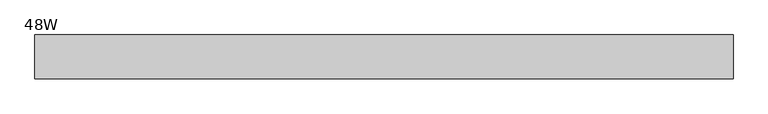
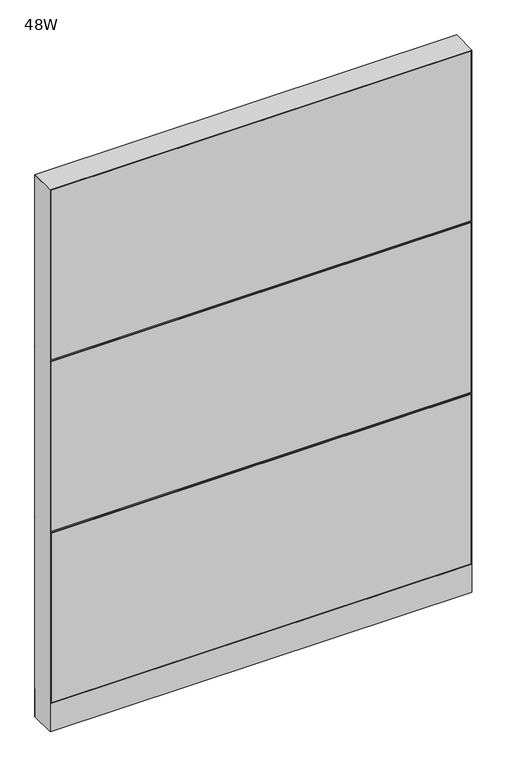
"""IFC4 building model written with IfcOpenShell, lengths in millimetres: furniture geometry, Steelcase - Montage - Frame - 65H - Enhanced Monolithic - Base Cavity : 48W."""

import ifcopenshell
import ifcopenshell.guid

model = None  # the IFC model being written
_history = None  # IfcOwnerHistory: only IFC2X3 demands one
_inside = {}  # id of a spatial element -> (the spatial element, [elements in it])
_under = {}  # id of a project, library or spatial element -> (it, [spatial elements below it])
_declared = {}  # id of a project -> (the project, [libraries it declares])
_typed = {}  # id of a type object -> (the type object, [elements of that type])
_made_of = {}  # id of a material, layer set ... -> (it, [elements and type objects made of it])


def new_model(schema):
    """Start an empty IFC model of exactly this schema.

    Asked for "IFC4X3", IfcOpenShell would pick the latest addendum, in which some entities
    have other attributes; the version numbers below select the first issue.
    IFC2X3 requires an IfcOwnerHistory on every rooted entity: one is made here for all.
    """
    global model, _history
    if schema == "IFC4X3":
        model = ifcopenshell.file(schema_version=(4, 3, 0, 0))
    else:
        model = ifcopenshell.file(schema=schema)
    _inside.clear()
    _under.clear()
    _declared.clear()
    _typed.clear()
    _made_of.clear()
    _history = None
    if model.schema == "IFC2X3":
        org = make("IfcOrganization", Name="unknown")
        user = make(
            "IfcPersonAndOrganization",
            ThePerson=make("IfcPerson", FamilyName="unknown"),
            TheOrganization=org,
        )
        app = make(
            "IfcApplication",
            ApplicationDeveloper=org,
            Version="unknown",
            ApplicationFullName="unknown",
            ApplicationIdentifier="unknown",
        )
        _history = make(
            "IfcOwnerHistory",
            OwningUser=user,
            OwningApplication=app,
            ChangeAction="ADDED",
            CreationDate=0,
        )
    return model


def make(cls, **values):
    """One entity of the class cls with the attributes given. An attribute that is None is left unset."""
    return model.create_entity(
        cls, **{name: value for name, value in values.items() if value is not None}
    )


def rooted(cls, **values):
    """An entity with a GlobalId (a new one), such as an element, a storey or a relation."""
    return make(cls, GlobalId=ifcopenshell.guid.new(), OwnerHistory=_history, **values)


def si_unit(unit_type, name, prefix=None):
    """IfcSIUnit, for example si_unit("LENGTHUNIT", "METRE", prefix="MILLI")."""
    return make("IfcSIUnit", UnitType=unit_type, Prefix=prefix, Name=name)


def assignment(units):
    """IfcUnitAssignment: the units of a project."""
    return None if units is None else make("IfcUnitAssignment", Units=units)


def point(xyz):
    """IfcCartesianPoint."""
    return None if xyz is None else make("IfcCartesianPoint", Coordinates=xyz)


def direction(xyz):
    """IfcDirection."""
    return None if xyz is None else make("IfcDirection", DirectionRatios=xyz)


def frame(location, z_axis=None, x_axis=None):
    """IfcAxis2Placement3D, a coordinate frame: its origin and axes. An axis left out is left unset."""
    return make(
        "IfcAxis2Placement3D",
        Location=point(location),
        Axis=direction(z_axis),
        RefDirection=direction(x_axis),
    )


def frame_2d(location, x_axis=None):
    """IfcAxis2Placement2D, a coordinate frame in the plane: its origin and x axis."""
    return make(
        "IfcAxis2Placement2D", Location=point(location), RefDirection=direction(x_axis)
    )


def origin():
    """The frame at (0, 0, 0) with its axes left unset."""
    return frame((0.0, 0.0, 0.0))


def origin_with_axes():
    """The frame at (0, 0, 0) with the z axis (0, 0, 1) and the x axis (1, 0, 0) written out."""
    return frame((0.0, 0.0, 0.0), z_axis=(0.0, 0.0, 1.0), x_axis=(1.0, 0.0, 0.0))


def place(relative_to, where):
    """IfcLocalPlacement: puts the frame where relative to a parent placement (None: the world)."""
    return make(
        "IfcLocalPlacement", PlacementRelTo=relative_to, RelativePlacement=where
    )


def context(
    kind, dimensions, precision=None, world=None, true_north=None, identifier=None
):
    """IfcGeometricRepresentationContext, for example the 3D "Model" context."""
    return make(
        "IfcGeometricRepresentationContext",
        ContextIdentifier=identifier,
        ContextType=kind,
        CoordinateSpaceDimension=dimensions,
        Precision=precision,
        WorldCoordinateSystem=world,
        TrueNorth=true_north,
    )


def project(units=None, contexts=None):
    """IfcProject with its units and contexts."""
    return rooted(
        "IfcProject",
        Name="project",
        RepresentationContexts=contexts,
        UnitsInContext=assignment(units),
    )


def spatial(cls, under=None, at=None, **own):
    """A site, building, storey or space (cls), placed at a placement, below another one or the project."""
    s = rooted(cls, ObjectPlacement=at, **own)
    if under is not None:
        _under.setdefault(under.id(), (under, []))[1].append(s)
    return s


def polyline(points):
    """IfcPolyline through the points."""
    return make("IfcPolyline", Points=[point(p) for p in points])


def circle_curve(where, radius):
    """IfcCircle in the frame where."""
    return make("IfcCircle", Position=where, Radius=radius)


def trimmed(basis, trim1, trim2, sense, master):
    """IfcTrimmedCurve: the piece of a basis curve between two trims."""
    return make(
        "IfcTrimmedCurve",
        BasisCurve=basis,
        Trim1=trim1,
        Trim2=trim2,
        SenseAgreement=sense,
        MasterRepresentation=master,
    )


def segment(curve, same_sense, transition):
    """IfcCompositeCurveSegment."""
    return make(
        "IfcCompositeCurveSegment",
        Transition=transition,
        SameSense=same_sense,
        ParentCurve=curve,
    )


def composite_curve(segments, self_intersect=None):
    """IfcCompositeCurve: segments joined end to end."""
    return make("IfcCompositeCurve", Segments=segments, SelfIntersect=self_intersect)


def outline(outer, holes=None, kind="AREA"):
    """IfcArbitraryClosedProfileDef: a profile drawn as a closed curve; with holes, ...WithVoids."""
    if holes is None:
        return make("IfcArbitraryClosedProfileDef", ProfileType=kind, OuterCurve=outer)
    return make(
        "IfcArbitraryProfileDefWithVoids",
        ProfileType=kind,
        OuterCurve=outer,
        InnerCurves=holes,
    )


def extrude(swept, where, along, depth):
    """IfcExtrudedAreaSolid: the profile swept, set in the frame where, extruded along a direction by depth."""
    return make(
        "IfcExtrudedAreaSolid",
        SweptArea=swept,
        Position=where,
        ExtrudedDirection=direction(along),
        Depth=depth,
    )


def faces_of(points, faces, orient=None, outer=None):
    """IfcFace entities. A face is a list of loops; a loop is a list of indices into points, from 0.

    orient and outer hold one flag for each loop. By default every Orientation is true, the
    first loop of a face is its IfcFaceOuterBound and the others are IfcFaceBound.
    """
    made = []
    for i, loops in enumerate(faces):
        bounds = []
        for j, loop in enumerate(loops):
            is_outer = j == 0 if outer is None else outer[i][j]
            bounds.append(
                make(
                    "IfcFaceOuterBound" if is_outer else "IfcFaceBound",
                    Bound=make("IfcPolyLoop", Polygon=[points[k] for k in loop]),
                    Orientation=True if orient is None else orient[i][j],
                )
            )
        made.append(make("IfcFace", Bounds=bounds))
    return made


def faceted_brep(points, faces, orient=None, outer=None, voids=None):
    """IfcFacetedBrep: a solid bounded by flat faces; with voids (closed shells), ...WithVoids."""
    shared = [point(p) for p in points]
    hull = make("IfcClosedShell", CfsFaces=faces_of(shared, faces, orient, outer))
    if voids is None:
        return make("IfcFacetedBrep", Outer=hull)
    return make(
        "IfcFacetedBrepWithVoids",
        Outer=hull,
        Voids=[
            make(cls, CfsFaces=faces_of(shared, fs, o, b)) for cls, fs, o, b in voids
        ],
    )


def shape(context_of_items, identifier, shape_type, items):
    """IfcShapeRepresentation: the items that make up one representation, for example the "Body"."""
    return make(
        "IfcShapeRepresentation",
        ContextOfItems=context_of_items,
        RepresentationIdentifier=identifier,
        RepresentationType=shape_type,
        Items=items,
    )


def source(mapping_origin, context_of_items, identifier, shape_type, items):
    """IfcRepresentationMap: a shape defined once, which mapped items show again and again."""
    return make(
        "IfcRepresentationMap",
        MappingOrigin=mapping_origin,
        MappedRepresentation=shape(context_of_items, identifier, shape_type, items),
    )


def transform(
    local_origin,
    x_axis=None,
    y_axis=None,
    z_axis=None,
    scale=None,
    scale2=None,
    scale3=None,
    uniform=True,
):
    """IfcCartesianTransformationOperator3D, or its non-uniform kind. x_axis, y_axis, z_axis: its Axis1, 2, 3."""
    if uniform:
        return make(
            "IfcCartesianTransformationOperator3D",
            Axis1=direction(x_axis),
            Axis2=direction(y_axis),
            LocalOrigin=point(local_origin),
            Scale=scale,
            Axis3=direction(z_axis),
        )
    return make(
        "IfcCartesianTransformationOperator3DnonUniform",
        Axis1=direction(x_axis),
        Axis2=direction(y_axis),
        LocalOrigin=point(local_origin),
        Scale=scale,
        Axis3=direction(z_axis),
        Scale2=scale2,
        Scale3=scale3,
    )


def mapped(mapping_source, mapping_target):
    """IfcMappedItem: shows the shape of a source again, moved by a transform."""
    return make(
        "IfcMappedItem", MappingSource=mapping_source, MappingTarget=mapping_target
    )


def made_of(thing, what):
    """Note that an element or type object is made of a material, layer set ...; save() writes the relation."""
    if what is not None:
        _made_of.setdefault(what.id(), (what, []))[1].append(thing)
    return thing


def element(
    cls,
    number,
    at=None,
    inside=None,
    cuts=None,
    type_object=None,
    material=None,
    context=None,
    identifier="Body",
    shape_type=None,
    held_by="IfcProductDefinitionShape",
    body=None,
    shapes=None,
    **own,
):
    """One element of the class cls, such as IfcWall. Its Tag is "e" and its number.

    at: its placement. inside: the storey or other place that contains it. cuts: it is an
    opening in that element (IfcRelVoidsElement). A single representation is given by context,
    identifier, shape_type and body (its items); several are given by shapes. held_by: the class
    of the entity that holds the representations. save() writes the other relations.
    """
    e = rooted(cls, Tag="e%d" % number, ObjectPlacement=at, **own)
    if body is not None:
        shapes = [shape(context, identifier, shape_type, body)]
    if shapes is not None:
        e.Representation = make(held_by, Representations=shapes)
    if inside is not None:
        _inside.setdefault(inside.id(), (inside, []))[1].append(e)
    if cuts is not None:
        rooted(
            "IfcRelVoidsElement", RelatingBuildingElement=cuts, RelatedOpeningElement=e
        )
    if type_object is not None:
        _typed.setdefault(type_object.id(), (type_object, []))[1].append(e)
    return made_of(e, material)


def aggregate(whole, parts):
    """IfcRelAggregates: a whole, such as a stair, and the parts it consists of."""
    return rooted("IfcRelAggregates", RelatingObject=whole, RelatedObjects=parts)


def save(model, path):
    """Write the relations noted so far, then the file.

    IfcRelAggregates (storeys below a building ...), IfcRelContainedInSpatialStructure (elements
    in a storey), IfcRelDefinesByType, IfcRelAssociatesMaterial and IfcRelDeclares: one each for
    every whole, place, type object, material and project.
    """
    for whole, parts in _under.values():
        aggregate(whole, parts)
    for where, things in _inside.values():
        rooted(
            "IfcRelContainedInSpatialStructure",
            RelatedElements=things,
            RelatingStructure=where,
        )
    for kind, things in _typed.values():
        rooted("IfcRelDefinesByType", RelatedObjects=things, RelatingType=kind)
    for what, things in _made_of.values():
        rooted("IfcRelAssociatesMaterial", RelatedObjects=things, RelatingMaterial=what)
    for by, libraries in _declared.values():
        rooted("IfcRelDeclares", RelatingContext=by, RelatedDefinitions=libraries)
    model.write(path)


def furniture_48w_8e4140e2(model_context):
    return source(origin(), model_context, "Body", "SolidModel", [
        extrude(outline(polyline([(3.175, 31.7500194), (3.175, 38.1000194), (1216.025, 38.1000194), (1216.025, 31.7500194), (3.175, 31.7500194)])), frame((0.0, 0.0, 92.075), z_axis=(0.0, 0.0, 1.0), x_axis=(1.0, 0.0, 0.0)), (0.0, 0.0, 1.0), 517.525),
        faceted_brep([(-5.4e-06, 38.102627, 612.7749973), (6.3499917, 31.7526299, 606.4250003), (6.3499917, 31.7526299, 619.1249997), (1212.8500047, 31.7526299, 619.1249997), (1212.8500047, 31.7526299, 606.4250003), (1219.2, 38.1026253, 612.7749956)], [[[0, 1, 2]], [[3, 4, 5]], [[0, 2, 3, 5]], [[5, 4, 1, 0]], [[2, 1, 4, 3]]]),
        faceted_brep([(-5.4e-06, 38.102627, 1136.6499973), (6.3499917, 31.7526299, 1130.3000003), (6.3499917, 31.7526299, 1142.9999997), (1212.8500047, 31.7526299, 1142.9999997), (1212.8500047, 31.7526299, 1130.3000003), (1219.2, 38.1026253, 1136.6499956)], [[[0, 1, 2]], [[3, 4, 5]], [[0, 2, 3, 5]], [[5, 4, 1, 0]], [[2, 1, 4, 3]]]),
        extrude(outline(polyline([(3.175, 31.7500194), (3.175, 38.1000194), (1216.025, 38.1000194), (1216.025, 31.7500194), (3.175, 31.7500194)])), frame((0.0, 0.0, 615.95), z_axis=(0.0, 0.0, 1.0), x_axis=(1.0, 0.0, 0.0)), (0.0, 0.0, 1.0), 517.525),
        extrude(outline(polyline([(3.175, 31.7500194), (3.175, 38.1000194), (1216.025, 38.1000194), (1216.025, 31.7500194), (3.175, 31.7500194)])), frame((0.0, 0.0, 1139.825), z_axis=(0.0, 0.0, 1.0), x_axis=(1.0, 0.0, 0.0)), (0.0, 0.0, 1.0), 517.525),
        extrude(outline(polyline([(3.175, -31.7500194), (1216.025, -31.7500194), (1216.025, -38.1000194), (3.175, -38.1000194), (3.175, -31.7500194)])), frame((0.0, 0.0, 92.075), z_axis=(0.0, 0.0, 1.0), x_axis=(1.0, 0.0, 0.0)), (0.0, 0.0, 1.0), 517.525),
        faceted_brep([(-5.4e-06, -38.102627, 612.7750027), (6.3499917, -31.7526299, 619.1249997), (6.3499917, -31.7526299, 606.4250003), (1212.8500047, -31.7526299, 619.1249997), (1219.2, -38.1026253, 612.7750044), (1212.8500047, -31.7526299, 606.4250003)], [[[0, 1, 2]], [[3, 4, 5]], [[0, 4, 3, 1]], [[4, 0, 2, 5]], [[1, 3, 5, 2]]]),
        faceted_brep([(-5.4e-06, -38.102627, 1136.6500027), (6.3499917, -31.7526299, 1142.9999997), (6.3499917, -31.7526299, 1130.3000003), (1212.8500047, -31.7526299, 1142.9999997), (1219.2, -38.1026253, 1136.6500044), (1212.8500047, -31.7526299, 1130.3000003)], [[[0, 1, 2]], [[3, 4, 5]], [[0, 4, 3, 1]], [[4, 0, 2, 5]], [[1, 3, 5, 2]]]),
        extrude(outline(polyline([(3.175, -31.7500194), (1216.025, -31.7500194), (1216.025, -38.1000194), (3.175, -38.1000194), (3.175, -31.7500194)])), frame((0.0, 0.0, 615.95), z_axis=(0.0, 0.0, 1.0), x_axis=(1.0, 0.0, 0.0)), (0.0, 0.0, 1.0), 517.525),
        extrude(outline(polyline([(3.175, -31.7500194), (1216.025, -31.7500194), (1216.025, -38.1000194), (3.175, -38.1000194), (3.175, -31.7500194)])), frame((0.0, 0.0, 1139.825), z_axis=(0.0, 0.0, 1.0), x_axis=(1.0, 0.0, 0.0)), (0.0, 0.0, 1.0), 517.525),
        extrude(outline(polyline([(6.350003, -31.7499985), (1212.849997, -31.7499985), (1219.2, -38.1000015), (0.0, -38.1000015), (6.350003, -31.7499985)])), frame((0.0, 0.0, 4.064), z_axis=(0.0, 0.0, 1.0), x_axis=(1.0, 0.0, 0.0)), (0.0, 0.0, 1.0), 84.835997),
        extrude(outline(polyline([(6.3500002, 31.7500017), (0.0, 38.1000015), (1219.2, 38.1000015), (1212.8500002, 31.7500017), (6.3500002, 31.7500017)])), frame((0.0, 0.0, 4.064), z_axis=(0.0, 0.0, 1.0), x_axis=(1.0, 0.0, 0.0)), (0.0, 0.0, 1.0), 84.835997),
        faceted_brep([(1219.2, -38.1000015, 1660.525), (0.0, -38.1000015, 1660.525), (6.3500484, -31.749953, 1654.1749516), (1212.8499516, -31.749953, 1654.1749516), (6.3500484, 31.749953, 1654.1749516), (1212.8499516, 31.749953, 1654.1749516), (0.0, 38.1000015, 1660.525), (1219.2, 38.1000015, 1660.525)], [[[0, 1, 2, 3]], [[3, 2, 4, 5]], [[6, 7, 5, 4]], [[1, 0, 7, 6]], [[2, 1, 6, 4]], [[0, 3, 5, 7]]]),
        extrude(outline(composite_curve([segment(trimmed(circle_curve(frame_2d((44.45, 0.0)), 15.24), [point((29.21, 0.0))], [point((59.69, 0.0))], False, "CARTESIAN"), True, "CONTINUOUS"), segment(trimmed(circle_curve(frame_2d((44.45, 0.0)), 15.24), [point((59.69, 0.0))], [point((29.21, 0.0))], False, "CARTESIAN"), True, "CONTINUOUS")], self_intersect=False)), origin_with_axes(), (0.0, 0.0, 1.0), 4.064),
        extrude(outline(composite_curve([segment(trimmed(circle_curve(frame_2d((1174.75, 0.0)), 15.24), [point((1159.51, 0.0))], [point((1189.99, 0.0))], False, "CARTESIAN"), True, "CONTINUOUS"), segment(trimmed(circle_curve(frame_2d((1174.75, 0.0)), 15.24), [point((1189.99, 0.0))], [point((1159.51, 0.0))], False, "CARTESIAN"), True, "CONTINUOUS")], self_intersect=False)), origin_with_axes(), (0.0, 0.0, 1.0), 4.064),
        faceted_brep([(1219.2, -38.1000106, 4.064), (1219.2, 38.1000015, 4.064), (1219.2, 38.1000015, 1660.525), (1219.2, -38.1000106, 1660.5249637), (0.0, 38.1000015, 4.064), (0.0, -38.1000015, 4.064), (0.0, -38.1000015, 1660.525), (0.0, 38.1000015, 1660.525), (1212.8499879, 31.7500017, 606.425), (6.35, 31.7500017, 606.425), (6.3499998, 31.7500017, 619.125), (1212.8499879, 31.7500017, 619.125), (6.35, -31.7499985, 619.125), (1212.8499879, -31.7499985, 619.125), (6.350003, -31.7499985, 606.425), (1212.8499879, -31.7499985, 606.425), (1212.8499879, 31.7500017, 1130.3), (6.35, 31.7500017, 1130.3), (6.3499998, 31.7500017, 1143.0), (1212.8499879, 31.7500017, 1143.0), (6.35, -31.7499985, 1143.0), (1212.8499879, -31.7499985, 1143.0), (6.350003, -31.7499985, 1130.3), (1212.8499879, -31.7499985, 1130.3), (6.35, 31.7500015, 4.064), (6.35, -31.7500015, 4.064), (1212.8499879, 31.7499894, 4.064), (1212.8499879, -31.7499985, 4.064), (6.35, 31.7500015, 1654.175), (6.35, -31.7500015, 1654.175), (1212.8499879, -31.7499985, 1654.1749516), (1212.8499879, 31.7499895, 1654.1749516)], [[[0, 1, 2, 3]], [[4, 5, 6, 7]], [[8, 9, 10, 11]], [[11, 10, 12, 13]], [[13, 12, 14, 15]], [[9, 8, 15, 14]], [[16, 17, 18, 19]], [[19, 18, 20, 21]], [[21, 20, 22, 23]], [[17, 16, 23, 22]], [[24, 25, 5, 4]], [[26, 1, 0, 27]], [[24, 4, 7, 28, 18, 17, 10, 9]], [[5, 25, 14, 12, 22, 20, 29, 6]], [[20, 18, 28, 29]], [[25, 24, 9, 14]], [[10, 17, 22, 12]], [[19, 21, 30, 31]], [[26, 27, 15, 8]], [[16, 11, 13, 23]], [[27, 0, 3, 30, 21, 23, 13, 15]], [[1, 26, 8, 11, 16, 19, 31, 2]], [[7, 6, 29, 28]], [[3, 2, 31, 30]]]),
    ])


if __name__ == "__main__":
    model = new_model("IFC4")
    model_context = context("Model", 3, world=origin())
    ifc_project = project(units=[si_unit("LENGTHUNIT", "METRE", prefix="MILLI")], contexts=[model_context])
    site = spatial("IfcSite", under=ifc_project)
    building = spatial("IfcBuilding", under=site)
    placement = place(None, origin())
    furniture_48w_shape = furniture_48w_8e4140e2(model_context)
    element("IfcFurniture", 1, ObjectType="Steelcase - Montage - Frame - 65H - Enhanced Monolithic - Base Cavity : 48W", at=placement, inside=building, context=model_context, shape_type="MappedRepresentation", body=[
        mapped(furniture_48w_shape, transform((0.0, 0.0, 0.0), x_axis=(1.0, 0.0, 0.0), y_axis=(0.0, 1.0, 0.0), z_axis=(0.0, 0.0, 1.0))),
    ])
    save(model, "model.ifc")
